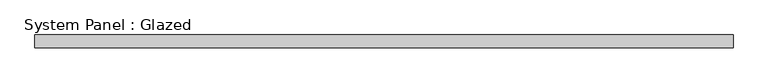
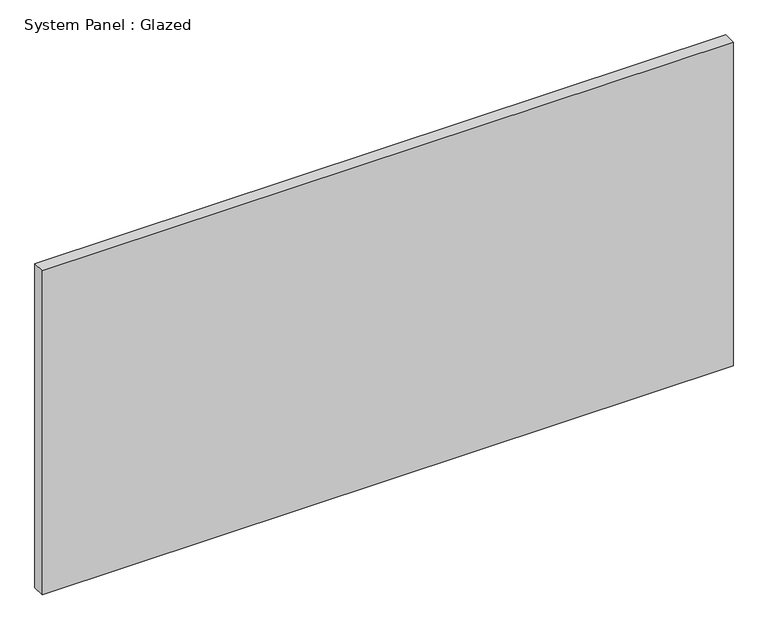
"""IFC4 building model written with IfcOpenShell, lengths in millimetres: plate geometry, System Panel : Glazed."""

from ifc_helpers import new_model, si_unit, origin, origin_with_axes, place, context, project, spatial, polyline, outline, extrude, source, transform, mapped, element, save


def system_panel_glazed_376ff413(model_context):
    return source(origin(), model_context, "Body", "SweptSolid", [
        extrude(outline(polyline([(698.5, 19.05), (-698.5, 19.05), (-698.5, 44.45), (698.5, 44.45), (698.5, 19.05)])), origin_with_axes(), (0.0, 0.0, 1.0), 692.15),
    ])


if __name__ == "__main__":
    model = new_model("IFC4")
    model_context = context("Model", 3, world=origin())
    ifc_project = project(units=[si_unit("LENGTHUNIT", "METRE", prefix="MILLI")], contexts=[model_context])
    site = spatial("IfcSite", under=ifc_project)
    building = spatial("IfcBuilding", under=site)
    placement = place(None, origin())
    system_panel_glazed_shape = system_panel_glazed_376ff413(model_context)
    element("IfcPlate", 1, ObjectType="System Panel : Glazed", at=placement, inside=building, context=model_context, shape_type="MappedRepresentation", body=[
        mapped(system_panel_glazed_shape, transform((0.0, 0.0, 0.0), x_axis=(1.0, 0.0, 0.0), y_axis=(0.0, 1.0, 0.0), z_axis=(0.0, 0.0, 1.0))),
    ])
    save(model, "model.ifc")
